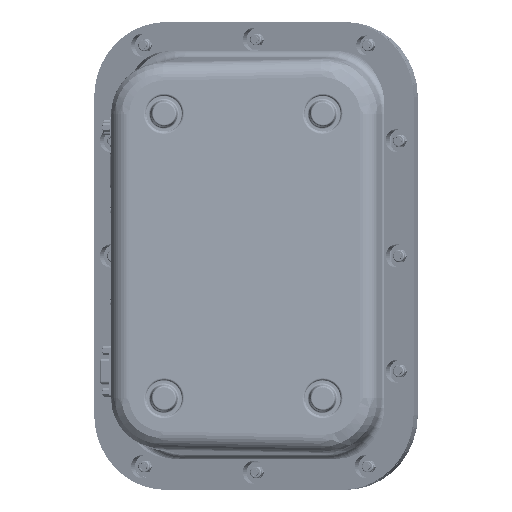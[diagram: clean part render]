
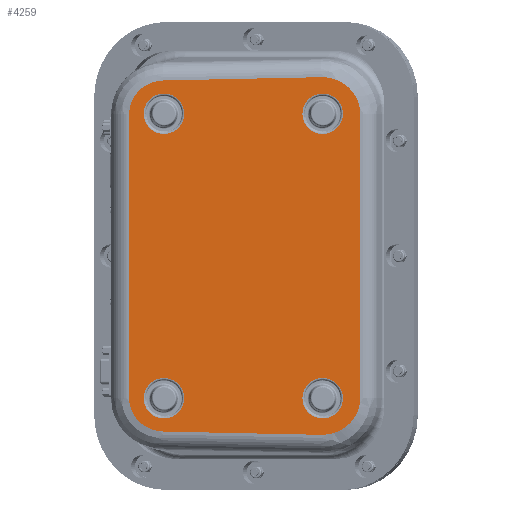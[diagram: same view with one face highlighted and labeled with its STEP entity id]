
A CAD part, front view. The second image highlights one B-rep face of the part: STEP entity #4259.
In plain terms, the highlighted planar face has unit normal (0, -1, 0).
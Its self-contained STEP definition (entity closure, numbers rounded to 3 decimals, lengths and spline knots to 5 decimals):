
#4259=ADVANCED_FACE('199:118',(#13424,#13425,#13426,#13427,#13428),#13429,.F.);
#13424=FACE_BOUND('',#47539,.T.);
#13425=FACE_BOUND('',#47540,.T.);
#13426=FACE_BOUND('',#47541,.T.);
#13427=FACE_BOUND('',#47542,.T.);
#13428=FACE_OUTER_BOUND('',#47543,.T.);
#13429=PLANE('',#47544);
#47539=EDGE_LOOP('',(#128361,#128362));
#47540=EDGE_LOOP('',(#128363,#128364));
#47541=EDGE_LOOP('',(#128365,#128366));
#47542=EDGE_LOOP('',(#128367,#128368));
#47543=EDGE_LOOP('',(#128369,#128370,#128371,#128372,#128373,#128374,#128375,#128376));
#47544=AXIS2_PLACEMENT_3D('',#128377,#128378,#128379);
#128361=ORIENTED_EDGE('',*,*,#193831,.F.);
#128362=ORIENTED_EDGE('',*,*,#193812,.F.);
#128363=ORIENTED_EDGE('',*,*,#193796,.T.);
#128364=ORIENTED_EDGE('',*,*,#193835,.T.);
#128365=ORIENTED_EDGE('',*,*,#193780,.T.);
#128366=ORIENTED_EDGE('',*,*,#193839,.T.);
#128367=ORIENTED_EDGE('',*,*,#193843,.F.);
#128368=ORIENTED_EDGE('',*,*,#193764,.F.);
#128369=ORIENTED_EDGE('',*,*,#194347,.T.);
#128370=ORIENTED_EDGE('',*,*,#194348,.T.);
#128371=ORIENTED_EDGE('',*,*,#194349,.T.);
#128372=ORIENTED_EDGE('',*,*,#194350,.T.);
#128373=ORIENTED_EDGE('',*,*,#194351,.T.);
#128374=ORIENTED_EDGE('',*,*,#194352,.T.);
#128375=ORIENTED_EDGE('',*,*,#194353,.T.);
#128376=ORIENTED_EDGE('',*,*,#194354,.T.);
#128377=CARTESIAN_POINT('',(0.07662,-0.04988,0.13645));
#128378=DIRECTION('',(0.,1.0,0.0));
#128379=DIRECTION('',(0.,0.,1.0));
#193764=EDGE_CURVE('1980:36',#219692,#219694,#219695,.T.);
#193780=EDGE_CURVE('1980:271',#219722,#219720,#219723,.T.);
#193796=EDGE_CURVE('1980:509',#219750,#219748,#219751,.T.);
#193812=EDGE_CURVE('1980:749',#219776,#219778,#219779,.T.);
#193831=EDGE_CURVE('1980:749',#219778,#219776,#219808,.T.);
#193835=EDGE_CURVE('1980:509',#219748,#219750,#219812,.T.);
#193839=EDGE_CURVE('1980:271',#219720,#219722,#219816,.T.);
#193843=EDGE_CURVE('1980:36',#219694,#219692,#219820,.T.);
#194347=EDGE_CURVE('199:3946',#220755,#220756,#220757,.T.);
#194348=EDGE_CURVE('199:3949',#220756,#220758,#220759,.T.);
#194349=EDGE_CURVE('199:3952',#220758,#220760,#220761,.T.);
#194350=EDGE_CURVE('199:3955',#220760,#220762,#220763,.T.);
#194351=EDGE_CURVE('199:3958',#220762,#220764,#220765,.T.);
#194352=EDGE_CURVE('199:3961',#220764,#220766,#220767,.T.);
#194353=EDGE_CURVE('199:3964',#220766,#220768,#220769,.T.);
#194354=EDGE_CURVE('199:3967',#220768,#220755,#220770,.T.);
#219692=VERTEX_POINT('',#258005);
#219694=VERTEX_POINT('',#258007);
#219695=CIRCLE('',#258008,0.01211);
#219720=VERTEX_POINT('',#258033);
#219722=VERTEX_POINT('',#258035);
#219723=CIRCLE('',#258036,0.01211);
#219748=VERTEX_POINT('',#258061);
#219750=VERTEX_POINT('',#258063);
#219751=CIRCLE('',#258064,0.01211);
#219776=VERTEX_POINT('',#258089);
#219778=VERTEX_POINT('',#258091);
#219779=CIRCLE('',#258092,0.01211);
#219808=CIRCLE('',#258123,0.01211);
#219812=CIRCLE('',#258127,0.01211);
#219816=CIRCLE('',#258131,0.01211);
#219820=CIRCLE('',#258135,0.01211);
#220755=VERTEX_POINT('NONE',#263826);
#220756=VERTEX_POINT('NONE',#263827);
#220757=LINE('',#263828,#263829);
#220758=VERTEX_POINT('NONE',#263830);
#220759=ELLIPSE('',#263831,0.02087,0.01994);
#220760=VERTEX_POINT('NONE',#263832);
#220761=LINE('',#263833,#263834);
#220762=VERTEX_POINT('NONE',#263835);
#220763=ELLIPSE('',#263836,0.02087,0.01994);
#220764=VERTEX_POINT('NONE',#263837);
#220765=LINE('',#263838,#263839);
#220766=VERTEX_POINT('NONE',#263840);
#220767=ELLIPSE('',#263841,0.02291,0.02189);
#220768=VERTEX_POINT('NONE',#263842);
#220769=LINE('',#263843,#263844);
#220770=ELLIPSE('',#263845,0.02291,0.02189);
#258005=CARTESIAN_POINT('',(-0.0484,-0.04988,-0.07305));
#258007=CARTESIAN_POINT('',(-0.0484,-0.04988,-0.09728));
#258008=AXIS2_PLACEMENT_3D('',#328037,#328038,#328039);
#258033=CARTESIAN_POINT('',(0.04657,-0.04988,-0.07305));
#258035=CARTESIAN_POINT('',(0.04657,-0.04988,-0.09728));
#258036=AXIS2_PLACEMENT_3D('',#328085,#328086,#328087);
#258061=CARTESIAN_POINT('',(-0.0484,-0.04988,0.07295));
#258063=CARTESIAN_POINT('',(-0.0484,-0.04988,0.09718));
#258064=AXIS2_PLACEMENT_3D('',#328133,#328134,#328135);
#258089=CARTESIAN_POINT('',(0.04657,-0.04988,0.07295));
#258091=CARTESIAN_POINT('',(0.04657,-0.04988,0.09718));
#258092=AXIS2_PLACEMENT_3D('',#328181,#328182,#328183);
#258123=AXIS2_PLACEMENT_3D('',#328234,#328235,#328236);
#258127=AXIS2_PLACEMENT_3D('',#328246,#328247,#328248);
#258131=AXIS2_PLACEMENT_3D('',#328258,#328259,#328260);
#258135=AXIS2_PLACEMENT_3D('',#328270,#328271,#328272);
#263826=CARTESIAN_POINT('',(0.04567,-0.04988,0.10694));
#263827=CARTESIAN_POINT('',(-0.04876,-0.04988,0.105));
#263828=CARTESIAN_POINT('',(-0.03594,-0.04988,0.10526));
#263829=VECTOR('',#328798,1.);
#263830=CARTESIAN_POINT('',(-0.06918,-0.04988,0.08506));
#263831=AXIS2_PLACEMENT_3D('',#328799,#328800,#328801);
#263832=CARTESIAN_POINT('',(-0.06918,-0.04988,-0.08517));
#263833=CARTESIAN_POINT('',(-0.06918,-0.04988,0.13645));
#263834=VECTOR('',#328802,1.0);
#263835=CARTESIAN_POINT('',(-0.04876,-0.04988,-0.1051));
#263836=AXIS2_PLACEMENT_3D('',#328803,#328804,#328805);
#263837=CARTESIAN_POINT('',(0.04567,-0.04988,-0.10705));
#263838=CARTESIAN_POINT('',(0.04249,-0.04988,-0.10698));
#263839=VECTOR('',#328806,1.);
#263840=CARTESIAN_POINT('',(0.06908,-0.04988,-0.08517));
#263841=AXIS2_PLACEMENT_3D('',#328807,#328808,#328809);
#263842=CARTESIAN_POINT('',(0.06908,-0.04988,0.08506));
#263843=CARTESIAN_POINT('',(0.06908,-0.04988,0.08506));
#263844=VECTOR('',#328810,1.0);
#263845=AXIS2_PLACEMENT_3D('',#328811,#328812,#328813);
#328037=CARTESIAN_POINT('',(-0.0484,-0.04988,-0.08517));
#328038=DIRECTION('',(0.,-1.0,0.));
#328039=DIRECTION('',(0.,0.,-1.0));
#328085=CARTESIAN_POINT('',(0.04657,-0.04988,-0.08517));
#328086=DIRECTION('',(0.,1.0,0.));
#328087=DIRECTION('',(0.,0.,-1.0));
#328133=CARTESIAN_POINT('',(-0.0484,-0.04988,0.08506));
#328134=DIRECTION('',(0.,1.0,0.));
#328135=DIRECTION('',(0.,0.,1.0));
#328181=CARTESIAN_POINT('',(0.04657,-0.04988,0.08506));
#328182=DIRECTION('',(0.0,-1.0,0.0));
#328183=DIRECTION('',(0.,0.0,1.0));
#328234=CARTESIAN_POINT('',(0.04657,-0.04988,0.08506));
#328235=DIRECTION('',(0.0,-1.0,0.0));
#328236=DIRECTION('',(0.,0.0,1.0));
#328246=CARTESIAN_POINT('',(-0.0484,-0.04988,0.08506));
#328247=DIRECTION('',(0.,1.0,0.));
#328248=DIRECTION('',(0.,0.,1.0));
#328258=CARTESIAN_POINT('',(0.04657,-0.04988,-0.08517));
#328259=DIRECTION('',(0.,1.0,0.));
#328260=DIRECTION('',(0.,0.,-1.0));
#328270=CARTESIAN_POINT('',(-0.0484,-0.04988,-0.08517));
#328271=DIRECTION('',(0.,-1.0,0.));
#328272=DIRECTION('',(0.,0.,-1.0));
#328798=DIRECTION('',(-1.,0.,-0.021));
#328799=CARTESIAN_POINT('',(-0.04831,-0.04988,0.08506));
#328800=DIRECTION('',(0.,-1.0,0.));
#328801=DIRECTION('',(-1.0,0.,0.));
#328802=DIRECTION('',(0.,0.,-1.0));
#328803=CARTESIAN_POINT('',(-0.04831,-0.04988,-0.08517));
#328804=DIRECTION('',(0.,-1.0,0.));
#328805=DIRECTION('',(-1.0,0.,0.));
#328806=DIRECTION('',(1.,0.,-0.021));
#328807=CARTESIAN_POINT('',(0.04617,-0.04988,-0.08517));
#328808=DIRECTION('',(0.,-1.0,0.));
#328809=DIRECTION('',(-1.0,0.,0.));
#328810=DIRECTION('',(0.,0.,1.0));
#328811=CARTESIAN_POINT('',(0.04617,-0.04988,0.08506));
#328812=DIRECTION('',(0.,-1.0,0.));
#328813=DIRECTION('',(-1.0,0.,0.));
